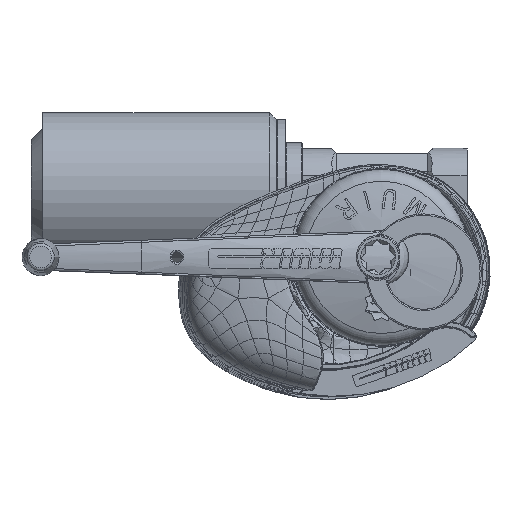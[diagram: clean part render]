
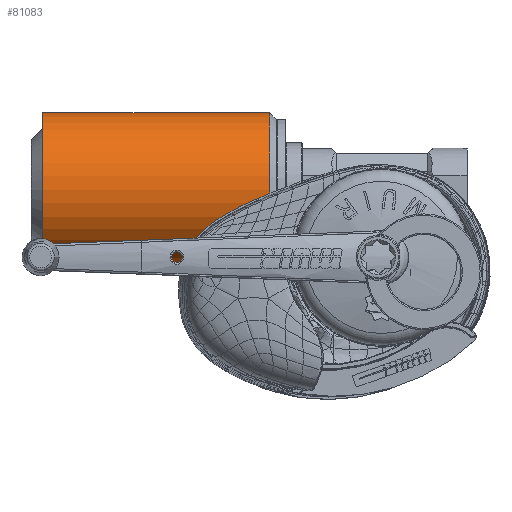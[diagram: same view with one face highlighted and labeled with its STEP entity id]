
A CAD part, top view. The second image highlights one B-rep face of the part: STEP entity #81083.
In plain terms, the highlighted cylindrical face has radius 57.25 mm (diameter 114.5 mm), a full revolution.
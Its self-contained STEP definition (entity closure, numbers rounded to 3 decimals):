
#5067=LINE('',#228217,#8497);
#8497=VECTOR('',#102745,57.25);
#10128=CYLINDRICAL_SURFACE('',#87948,57.25);
#13898=FACE_OUTER_BOUND('',#19016,.T.);
#19016=EDGE_LOOP('',(#68905,#68906,#68907,#68908,#68909));
#23268=CIRCLE('',#87946,57.25);
#23269=CIRCLE('',#87947,57.25);
#23270=CIRCLE('',#87949,57.25);
#35284=VERTEX_POINT('',#228209);
#35285=VERTEX_POINT('',#228211);
#35286=VERTEX_POINT('',#228215);
#46707=EDGE_CURVE('',#35284,#35285,#23268,.T.);
#46708=EDGE_CURVE('',#35285,#35284,#23269,.T.);
#46709=EDGE_CURVE('',#35286,#35286,#23270,.T.);
#46710=EDGE_CURVE('',#35286,#35285,#5067,.T.);
#68905=ORIENTED_EDGE('',*,*,#46709,.F.);
#68906=ORIENTED_EDGE('',*,*,#46710,.T.);
#68907=ORIENTED_EDGE('',*,*,#46707,.F.);
#68908=ORIENTED_EDGE('',*,*,#46708,.F.);
#68909=ORIENTED_EDGE('',*,*,#46710,.F.);
#81083=ADVANCED_FACE('',(#13898),#10128,.T.);
#87946=AXIS2_PLACEMENT_3D('',#228212,#102737,#102738);
#87947=AXIS2_PLACEMENT_3D('',#228213,#102739,#102740);
#87948=AXIS2_PLACEMENT_3D('',#228214,#102741,#102742);
#87949=AXIS2_PLACEMENT_3D('',#228216,#102743,#102744);
#102737=DIRECTION('center_axis',(1.,0.,0.));
#102738=DIRECTION('ref_axis',(0.,0.762,-0.648));
#102739=DIRECTION('center_axis',(1.,0.,0.));
#102740=DIRECTION('ref_axis',(0.,0.762,-0.648));
#102741=DIRECTION('center_axis',(-1.,0.,0.));
#102742=DIRECTION('ref_axis',(0.,-0.762,
0.648));
#102743=DIRECTION('center_axis',(-1.,0.,0.));
#102744=DIRECTION('ref_axis',(0.,-0.762,
0.648));
#102745=DIRECTION('',(1.,0.,0.));
#228209=CARTESIAN_POINT('',(4.023,63.974,-125.152));
#228211=CARTESIAN_POINT('',(4.023,151.169,-199.364));
#228212=CARTESIAN_POINT('Origin',(4.023,107.571,-162.258));
#228213=CARTESIAN_POINT('Origin',(4.023,107.571,-162.258));
#228214=CARTESIAN_POINT('Origin',(-76.727,107.571,-162.258));
#228215=CARTESIAN_POINT('',(-162.477,151.169,-199.364));
#228216=CARTESIAN_POINT('Origin',(-162.477,107.571,-162.258));
#228217=CARTESIAN_POINT('',(-76.727,151.169,-199.364));
